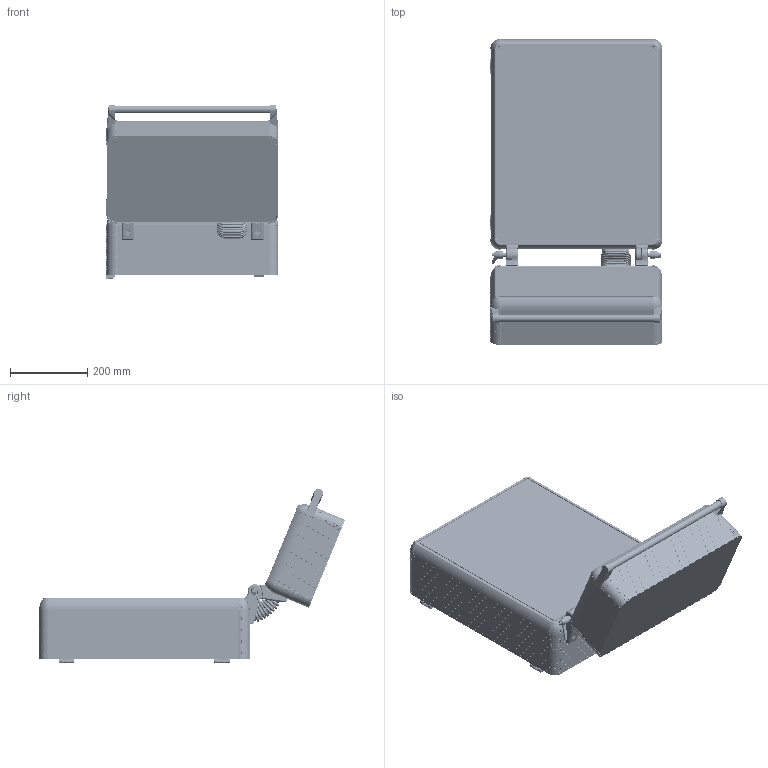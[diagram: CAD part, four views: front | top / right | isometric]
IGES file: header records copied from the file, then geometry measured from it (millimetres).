
Start section: SolidWorks IGES file using analytic representation for surfaces
Global section: file name: D:\KLAVYE\KLV 1512\1512 datalar\1500-1210.IGS; native system: SolidWorks 2022; preprocessor: SolidWorks 2022; author: User; date: 220509.144447; units: millimetre
Bounding box: 449.03 x 795.1 x 452.65 mm (x, y, z)
Surface area: 3635031.8 mm2 (no closed solid volume)
Topology: 0 solids, 0 shells, 23605 faces, 184167 edges, 183242 vertices
Faces by surface type: bspline 15387, revolution 8218
